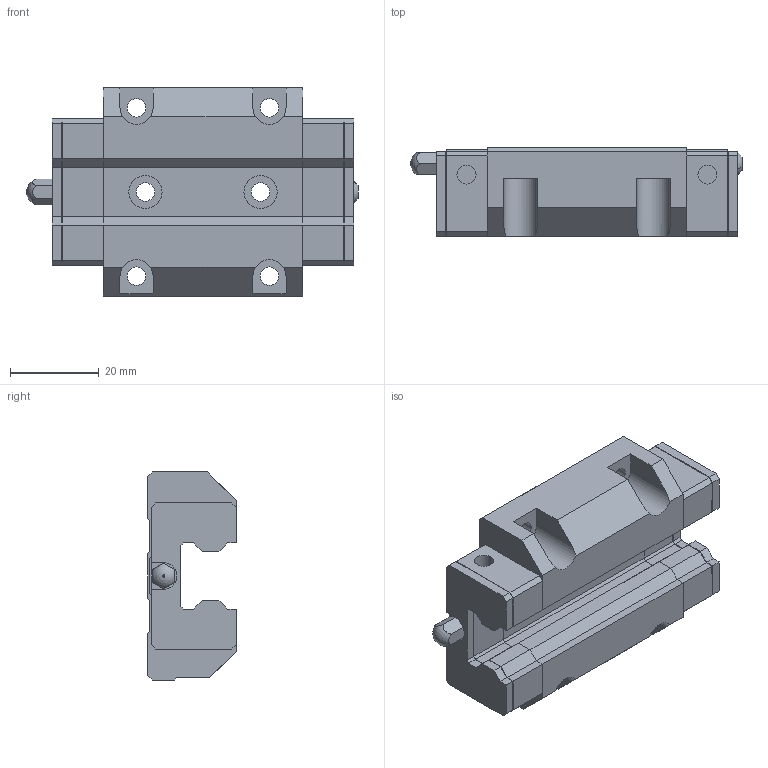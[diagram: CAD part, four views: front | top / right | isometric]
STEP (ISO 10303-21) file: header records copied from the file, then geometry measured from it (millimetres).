
FILE_DESCRIPTION (( 'STEP AP203' ), '1' );
FILE_NAME ('SRW15CC.STEP', '2025-07-11T05:21:31', ( 'Owner' ), ( 'Organization' ), 'SwSTEP 2.0', 'SolidWorks 2020', '' );
FILE_SCHEMA (( 'CONFIG_CONTROL_DESIGN' ));
Length unit declared in the file: millimetre
Products named in the file (1): SRW15CC
Bounding box: 74.96 x 20 x 47 mm (x, y, z)
Volume: 39951.7 mm3; surface area: 16893.5 mm2
Topology: 7 solids, 7 shells, 292 faces, 746 edges, 482 vertices
Faces by surface type: plane 234, cylinder 54, sphere 2, torus 2
Entity records: 8771 total; most frequent: CARTESIAN_POINT 1539, ORIENTED_EDGE 1484, DIRECTION 1440, EDGE_CURVE 742, LINE 614, VECTOR 614, VERTEX_POINT 480, AXIS2_PLACEMENT_3D 413
